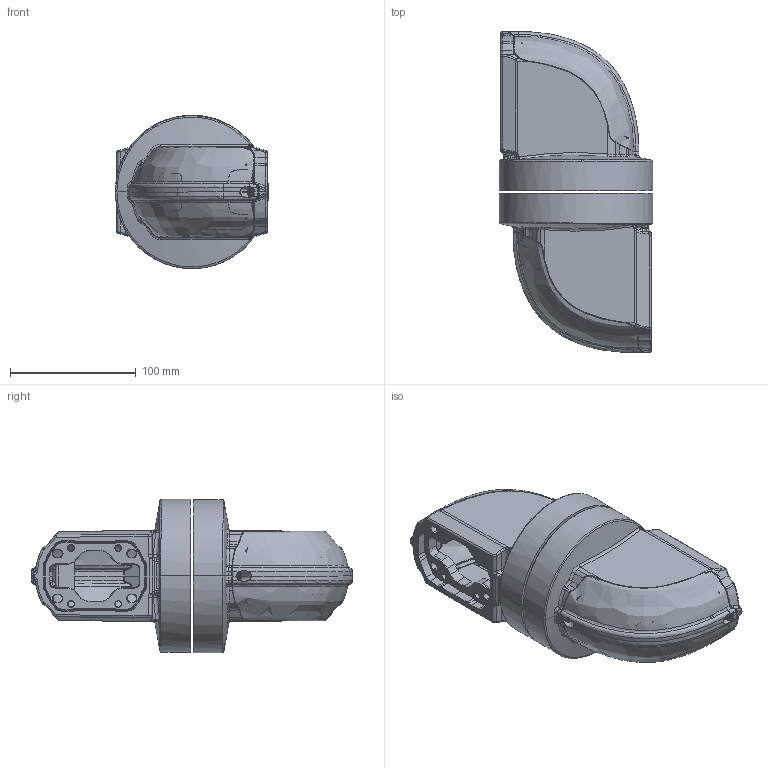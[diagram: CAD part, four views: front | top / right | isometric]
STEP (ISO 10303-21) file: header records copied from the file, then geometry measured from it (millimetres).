
FILE_DESCRIPTION (( 'STEP AP203' ), '1' );
FILE_NAME ('TP.060.0234.STEP', '2026-09-30T08:52:05', ( '' ), ( '' ), 'SwSTEP 2.0', 'SolidWorks 2015', '' );
FILE_SCHEMA (( 'CONFIG_CONTROL_DESIGN' ));
Products named in the file (7): TP.060.Kapak; kapak vida; TP.060.200_1; TP.060.200; TP.060.200_2; TP.060.0234
Assembly tree (10 placements, depth 3):
  TP.060.0234
    TP.060.200_1
      TP.060.200
      TP.060.Kapak
    TP.060.200_2
      TP.060.Kapak
      TP.060.200_1
    kapak vida  x4
Bounding box: 122.01 x 256.07 x 122.36 mm (x, y, z)
Volume: 330171.9 mm3; surface area: 204996.8 mm2
Topology: 7 solids, 11 shells, 5330 faces, 13101 edges, 7771 vertices
Faces by surface type: bspline 3728, plane 549, cylinder 520, cone 297, torus 162, sphere 74
Entity records: 326794 total; most frequent: CARTESIAN_POINT 249193, ORIENTED_EDGE 21133, EDGE_CURVE 10573, B_SPLINE_CURVE_WITH_KNOTS 7697, DIRECTION 6471, VERTEX_POINT 6310, EDGE_LOOP 4424, ADVANCED_FACE 4309
